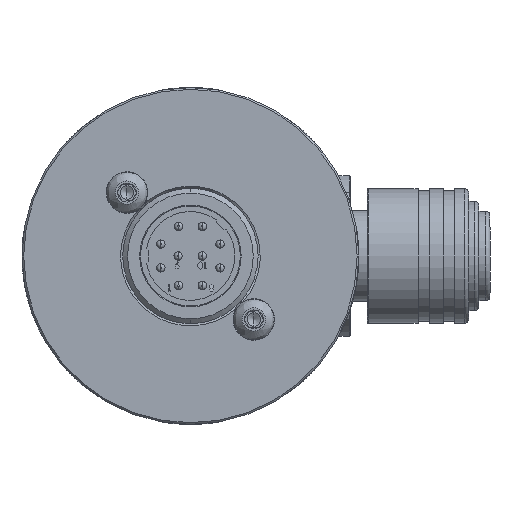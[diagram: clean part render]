
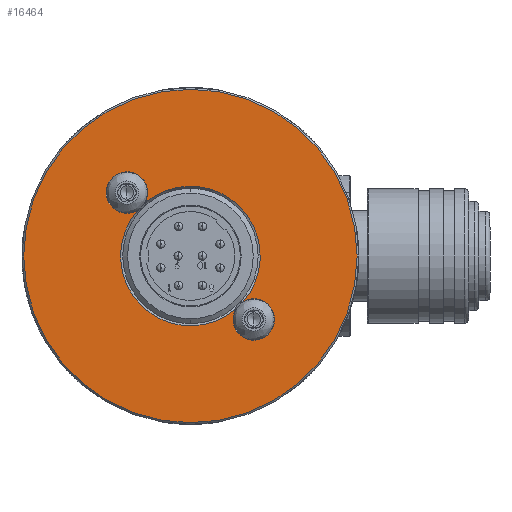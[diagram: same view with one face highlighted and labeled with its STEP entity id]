
A CAD part, front view. The second image highlights one B-rep face of the part: STEP entity #16464.
In plain terms, the highlighted planar face has unit normal (0, -1, 0).
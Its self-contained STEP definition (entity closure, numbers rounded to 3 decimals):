
#395 = DIRECTION ( 'NONE',  ( 0., 1., 0. ) ) ;
#524 = DIRECTION ( 'NONE',  ( 0., 0., 1. ) ) ;
#560 = DIRECTION ( 'NONE',  ( 0., 0., -1. ) ) ;
#563 = VERTEX_POINT ( 'NONE', #14967 ) ;
#615 = ORIENTED_EDGE ( 'NONE', *, *, #26759, .F. ) ;
#681 = CARTESIAN_POINT ( 'NONE',  ( 7.5, -177.813, -7.5 ) ) ;
#705 = CIRCLE ( 'NONE', #16064, 2.45 ) ;
#853 = PLANE ( 'NONE',  #7762 ) ;
#1031 = DIRECTION ( 'NONE',  ( 0., 0., -1. ) ) ;
#1124 = CIRCLE ( 'NONE', #11507, 2.45 ) ;
#1197 = VERTEX_POINT ( 'NONE', #3018 ) ;
#1263 = EDGE_CURVE ( 'NONE', #26777, #22670, #13155, .T. ) ;
#1591 = EDGE_CURVE ( 'NONE', #26777, #13865, #1124, .T. ) ;
#1615 = VERTEX_POINT ( 'NONE', #10425 ) ;
#1714 = AXIS2_PLACEMENT_3D ( 'NONE', #681, #9453, #560 ) ;
#2148 = CIRCLE ( 'NONE', #5752, 2.45 ) ;
#2313 = VERTEX_POINT ( 'NONE', #9739 ) ;
#2518 = CIRCLE ( 'NONE', #10174, 2.45 ) ;
#2636 = ORIENTED_EDGE ( 'NONE', *, *, #27943, .T. ) ;
#2901 = EDGE_CURVE ( 'NONE', #1197, #1615, #705, .T. ) ;
#3018 = CARTESIAN_POINT ( 'NONE',  ( -7.5, -177.813, 5.05 ) ) ;
#3699 = DIRECTION ( 'NONE',  ( 0., 0., 1. ) ) ;
#3968 = CIRCLE ( 'NONE', #1714, 2.45 ) ;
#4051 = DIRECTION ( 'NONE',  ( 0., -1., 0. ) ) ;
#4342 = CARTESIAN_POINT ( 'NONE',  ( -7.5, -177.813, 7.5 ) ) ;
#4442 = CIRCLE ( 'NONE', #27112, 19.7 ) ;
#4702 = CARTESIAN_POINT ( 'NONE',  ( -5.401, -177.813, 6.236 ) ) ;
#4816 = ORIENTED_EDGE ( 'NONE', *, *, #23773, .T. ) ;
#4982 = DIRECTION ( 'NONE',  ( 0., 0., -1. ) ) ;
#5092 = DIRECTION ( 'NONE',  ( 0., 0., 1. ) ) ;
#5752 = AXIS2_PLACEMENT_3D ( 'NONE', #15724, #24137, #4982 ) ;
#5966 = CIRCLE ( 'NONE', #21817, 2.45 ) ;
#6359 = ORIENTED_EDGE ( 'NONE', *, *, #1263, .T. ) ;
#7682 = DIRECTION ( 'NONE',  ( 0., 1., 0. ) ) ;
#7711 = CARTESIAN_POINT ( 'NONE',  ( 7.5, -177.813, -5.05 ) ) ;
#7762 = AXIS2_PLACEMENT_3D ( 'NONE', #10019, #22941, #5092 ) ;
#7989 = ORIENTED_EDGE ( 'NONE', *, *, #27781, .F. ) ;
#8100 = CARTESIAN_POINT ( 'NONE',  ( 0., -177.813, 0. ) ) ;
#9453 = DIRECTION ( 'NONE',  ( 0., -1., 0. ) ) ;
#9588 = VERTEX_POINT ( 'NONE', #7711 ) ;
#9739 = CARTESIAN_POINT ( 'NONE',  ( 7.5, -177.813, -9.95 ) ) ;
#10019 = CARTESIAN_POINT ( 'NONE',  ( 8.05, -177.813, 0. ) ) ;
#10174 = AXIS2_PLACEMENT_3D ( 'NONE', #19878, #11775, #1031 ) ;
#10425 = CARTESIAN_POINT ( 'NONE',  ( -6.236, -177.813, 5.401 ) ) ;
#11113 = ORIENTED_EDGE ( 'NONE', *, *, #14530, .F. ) ;
#11507 = AXIS2_PLACEMENT_3D ( 'NONE', #19210, #4051, #12129 ) ;
#11555 = EDGE_CURVE ( 'NONE', #20417, #2313, #5966, .T. ) ;
#11775 = DIRECTION ( 'NONE',  ( 0., -1., 0. ) ) ;
#11803 = CARTESIAN_POINT ( 'NONE',  ( -7.5, -177.813, 9.95 ) ) ;
#12129 = DIRECTION ( 'NONE',  ( 0., 0., -1. ) ) ;
#12142 = FACE_OUTER_BOUND ( 'NONE', #20440, .T. ) ;
#12429 = CARTESIAN_POINT ( 'NONE',  ( 7.5, -177.813, -7.5 ) ) ;
#12585 = ORIENTED_EDGE ( 'NONE', *, *, #1591, .F. ) ;
#12590 = CIRCLE ( 'NONE', #13479, 8.25 ) ;
#13037 = CARTESIAN_POINT ( 'NONE',  ( 0., -177.813, 0. ) ) ;
#13120 = DIRECTION ( 'NONE',  ( 0., -1., 0. ) ) ;
#13155 = CIRCLE ( 'NONE', #16774, 8.25 ) ;
#13479 = AXIS2_PLACEMENT_3D ( 'NONE', #22192, #395, #524 ) ;
#13865 = VERTEX_POINT ( 'NONE', #11803 ) ;
#14530 = EDGE_CURVE ( 'NONE', #2313, #9588, #2518, .T. ) ;
#14967 = CARTESIAN_POINT ( 'NONE',  ( 0., -177.813, -19.7 ) ) ;
#15496 = DIRECTION ( 'NONE',  ( 0., 0., 1. ) ) ;
#15578 = EDGE_LOOP ( 'NONE', ( #19487, #2636, #24959, #615, #12585, #6359, #7989, #11113 ) ) ;
#15724 = CARTESIAN_POINT ( 'NONE',  ( -7.5, -177.813, 7.5 ) ) ;
#15768 = CARTESIAN_POINT ( 'NONE',  ( 0., -177.813, 0. ) ) ;
#16064 = AXIS2_PLACEMENT_3D ( 'NONE', #4342, #13120, #21786 ) ;
#16105 = CARTESIAN_POINT ( 'NONE',  ( 5.401, -177.813, -6.236 ) ) ;
#16368 = AXIS2_PLACEMENT_3D ( 'NONE', #13037, #19569, #21693 ) ;
#16464 = ADVANCED_FACE ( 'NONE', ( #12142, #27076 ), #853, .F. ) ;
#16774 = AXIS2_PLACEMENT_3D ( 'NONE', #8100, #7682, #3699 ) ;
#18961 = ORIENTED_EDGE ( 'NONE', *, *, #27942, .T. ) ;
#19210 = CARTESIAN_POINT ( 'NONE',  ( -7.5, -177.813, 7.5 ) ) ;
#19487 = ORIENTED_EDGE ( 'NONE', *, *, #11555, .F. ) ;
#19569 = DIRECTION ( 'NONE',  ( 0., -1., 0. ) ) ;
#19878 = CARTESIAN_POINT ( 'NONE',  ( 7.5, -177.813, -7.5 ) ) ;
#20417 = VERTEX_POINT ( 'NONE', #16105 ) ;
#20440 = EDGE_LOOP ( 'NONE', ( #18961, #4816 ) ) ;
#21376 = DIRECTION ( 'NONE',  ( 0., -1., 0. ) ) ;
#21693 = DIRECTION ( 'NONE',  ( 0., 0., 1. ) ) ;
#21786 = DIRECTION ( 'NONE',  ( 0., 0., -1. ) ) ;
#21817 = AXIS2_PLACEMENT_3D ( 'NONE', #12429, #21376, #25345 ) ;
#21824 = CIRCLE ( 'NONE', #16368, 19.7 ) ;
#22192 = CARTESIAN_POINT ( 'NONE',  ( 0., -177.813, 0. ) ) ;
#22670 = VERTEX_POINT ( 'NONE', #26061 ) ;
#22941 = DIRECTION ( 'NONE',  ( 0., 1., 0. ) ) ;
#23773 = EDGE_CURVE ( 'NONE', #563, #28031, #21824, .T. ) ;
#24137 = DIRECTION ( 'NONE',  ( 0., -1., 0. ) ) ;
#24445 = DIRECTION ( 'NONE',  ( 0., -1., 0. ) ) ;
#24959 = ORIENTED_EDGE ( 'NONE', *, *, #2901, .F. ) ;
#25345 = DIRECTION ( 'NONE',  ( 0., 0., -1. ) ) ;
#26061 = CARTESIAN_POINT ( 'NONE',  ( 6.236, -177.813, -5.401 ) ) ;
#26759 = EDGE_CURVE ( 'NONE', #13865, #1197, #2148, .T. ) ;
#26777 = VERTEX_POINT ( 'NONE', #4702 ) ;
#26886 = CARTESIAN_POINT ( 'NONE',  ( 0., -177.813, 19.7 ) ) ;
#27076 = FACE_BOUND ( 'NONE', #15578, .T. ) ;
#27112 = AXIS2_PLACEMENT_3D ( 'NONE', #15768, #24445, #15496 ) ;
#27781 = EDGE_CURVE ( 'NONE', #9588, #22670, #3968, .T. ) ;
#27942 = EDGE_CURVE ( 'NONE', #28031, #563, #4442, .T. ) ;
#27943 = EDGE_CURVE ( 'NONE', #20417, #1615, #12590, .T. ) ;
#28031 = VERTEX_POINT ( 'NONE', #26886 ) ;
